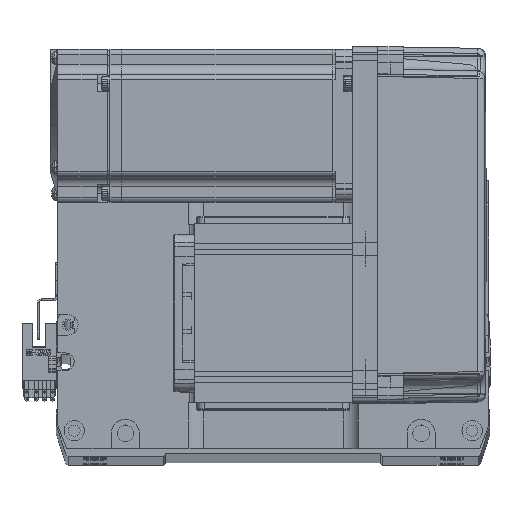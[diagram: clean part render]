
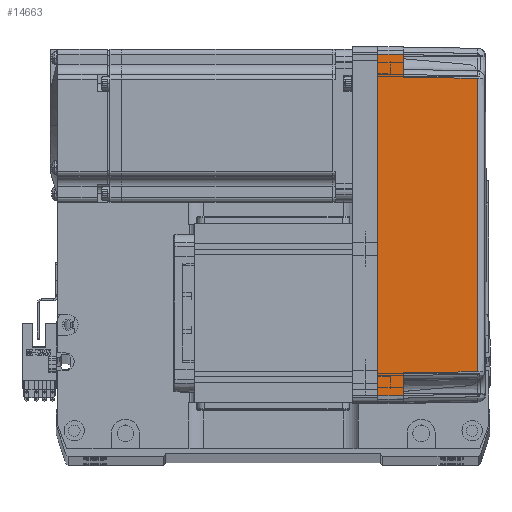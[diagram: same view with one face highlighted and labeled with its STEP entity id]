
A CAD part, top view. The second image highlights one B-rep face of the part: STEP entity #14663.
In plain terms, the highlighted planar face has unit normal (0.018, 0, 1) as drawn and (0, -1, 0.017) by its records, which use the part's own axes.
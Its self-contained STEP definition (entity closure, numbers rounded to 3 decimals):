
#477 = VERTEX_POINT ( 'NONE', #29600 ) ;
#2435 = EDGE_CURVE ( 'NONE', #59475, #477, #24735, .T. ) ;
#3050 = CARTESIAN_POINT ( 'NONE',  ( 70., -35.825, 10. ) ) ;
#3185 = EDGE_CURVE ( 'NONE', #67051, #37271, #59359, .T. ) ;
#4093 = VERTEX_POINT ( 'NONE', #49298 ) ;
#4408 = DIRECTION ( 'NONE',  ( 0.017, 0.017, 1. ) ) ;
#5248 = VECTOR ( 'NONE', #38555, 1000. ) ;
#5712 = LINE ( 'NONE', #3050, #50919 ) ;
#6899 = ORIENTED_EDGE ( 'NONE', *, *, #53883, .F. ) ;
#9376 = CARTESIAN_POINT ( 'NONE',  ( -66.959, -35.958, 2.39 ) ) ;
#10939 = CARTESIAN_POINT ( 'NONE',  ( 67., -36., 0. ) ) ;
#14663 = ADVANCED_FACE ( 'NONE', ( #53293 ), #18168, .T. ) ;
#15141 = EDGE_CURVE ( 'NONE', #67051, #36640, #27385, .T. ) ;
#17924 = DIRECTION ( 'NONE',  ( 0., -1., 0.017 ) ) ;
#18168 = PLANE ( 'NONE',  #50649 ) ;
#19422 = CARTESIAN_POINT ( 'NONE',  ( -67., -36., 0. ) ) ;
#20597 = EDGE_LOOP ( 'NONE', ( #46184, #27973, #57863, #62104, #34942, #66465, #6899, #30422 ) ) ;
#22635 = CARTESIAN_POINT ( 'NONE',  ( 67., -36., 0. ) ) ;
#24117 = EDGE_CURVE ( 'NONE', #37271, #59475, #5712, .T. ) ;
#24735 = LINE ( 'NONE', #37477, #42542 ) ;
#24788 = CARTESIAN_POINT ( 'NONE',  ( -19.165, -35.316, 39.181 ) ) ;
#24847 = CARTESIAN_POINT ( 'NONE',  ( 70., -35.825, 10. ) ) ;
#26780 = LINE ( 'NONE', #47365, #52652 ) ;
#27385 = LINE ( 'NONE', #54587, #53242 ) ;
#27973 = ORIENTED_EDGE ( 'NONE', *, *, #24117, .T. ) ;
#29406 = B_SPLINE_CURVE_WITH_KNOTS ( 'NONE', 3,
 ( #39980, #34747, #24788, #61208 ),
 .UNSPECIFIED., .F., .F.,
 ( 4, 4 ),
 ( 0., 1. ),
 .UNSPECIFIED. ) ;
#29600 = CARTESIAN_POINT ( 'NONE',  ( 57.495, -35.32, 38.985 ) ) ;
#29769 = VERTEX_POINT ( 'NONE', #40398 ) ;
#30422 = ORIENTED_EDGE ( 'NONE', *, *, #15141, .F. ) ;
#30567 = LINE ( 'NONE', #9376, #36227 ) ;
#31117 = CARTESIAN_POINT ( 'NONE',  ( 66.826, -35.825, 10. ) ) ;
#34747 = CARTESIAN_POINT ( 'NONE',  ( 19.165, -35.316, 39.181 ) ) ;
#34942 = ORIENTED_EDGE ( 'NONE', *, *, #51028, .T. ) ;
#36227 = VECTOR ( 'NONE', #4408, 1000. ) ;
#36640 = VERTEX_POINT ( 'NONE', #19422 ) ;
#37271 = VERTEX_POINT ( 'NONE', #31117 ) ;
#37477 = CARTESIAN_POINT ( 'NONE',  ( 58., -35.825, 10. ) ) ;
#38555 = DIRECTION ( 'NONE',  ( -0.017, 0.017, 1. ) ) ;
#38573 = DIRECTION ( 'NONE',  ( 0., -0.017, -1. ) ) ;
#39273 = VERTEX_POINT ( 'NONE', #62183 ) ;
#39980 = CARTESIAN_POINT ( 'NONE',  ( 57.495, -35.32, 38.985 ) ) ;
#40398 = CARTESIAN_POINT ( 'NONE',  ( -57.495, -35.32, 38.985 ) ) ;
#42542 = VECTOR ( 'NONE', #51890, 1000. ) ;
#43283 = CARTESIAN_POINT ( 'NONE',  ( 70., -36., 0. ) ) ;
#43998 = VECTOR ( 'NONE', #65781, 1000. ) ;
#44148 = DIRECTION ( 'NONE',  ( -1., 0., 0. ) ) ;
#46184 = ORIENTED_EDGE ( 'NONE', *, *, #3185, .T. ) ;
#47365 = CARTESIAN_POINT ( 'NONE',  ( -57.495, -35.32, 38.985 ) ) ;
#49298 = CARTESIAN_POINT ( 'NONE',  ( -58., -35.825, 10. ) ) ;
#49725 = EDGE_CURVE ( 'NONE', #477, #29769, #29406, .T. ) ;
#50649 = AXIS2_PLACEMENT_3D ( 'NONE', #43283, #17924, #38573 ) ;
#50919 = VECTOR ( 'NONE', #44148, 1000. ) ;
#51028 = EDGE_CURVE ( 'NONE', #29769, #4093, #26780, .T. ) ;
#51890 = DIRECTION ( 'NONE',  ( -0.017, 0.017, 1. ) ) ;
#52652 = VECTOR ( 'NONE', #58156, 1000. ) ;
#53242 = VECTOR ( 'NONE', #59798, 1000. ) ;
#53293 = FACE_OUTER_BOUND ( 'NONE', #20597, .T. ) ;
#53883 = EDGE_CURVE ( 'NONE', #36640, #39273, #30567, .T. ) ;
#54587 = CARTESIAN_POINT ( 'NONE',  ( 0., -36., 0. ) ) ;
#57863 = ORIENTED_EDGE ( 'NONE', *, *, #2435, .T. ) ;
#58156 = DIRECTION ( 'NONE',  ( -0.017, -0.017, -1. ) ) ;
#59359 = LINE ( 'NONE', #22635, #5248 ) ;
#59475 = VERTEX_POINT ( 'NONE', #66600 ) ;
#59798 = DIRECTION ( 'NONE',  ( -1., 0., 0. ) ) ;
#60744 = EDGE_CURVE ( 'NONE', #4093, #39273, #65052, .T. ) ;
#61208 = CARTESIAN_POINT ( 'NONE',  ( -57.495, -35.32, 38.985 ) ) ;
#62104 = ORIENTED_EDGE ( 'NONE', *, *, #49725, .T. ) ;
#62183 = CARTESIAN_POINT ( 'NONE',  ( -66.826, -35.825, 10. ) ) ;
#65052 = LINE ( 'NONE', #24847, #43998 ) ;
#65781 = DIRECTION ( 'NONE',  ( -1., 0., 0. ) ) ;
#66465 = ORIENTED_EDGE ( 'NONE', *, *, #60744, .T. ) ;
#66600 = CARTESIAN_POINT ( 'NONE',  ( 58., -35.825, 10. ) ) ;
#67051 = VERTEX_POINT ( 'NONE', #10939 ) ;
